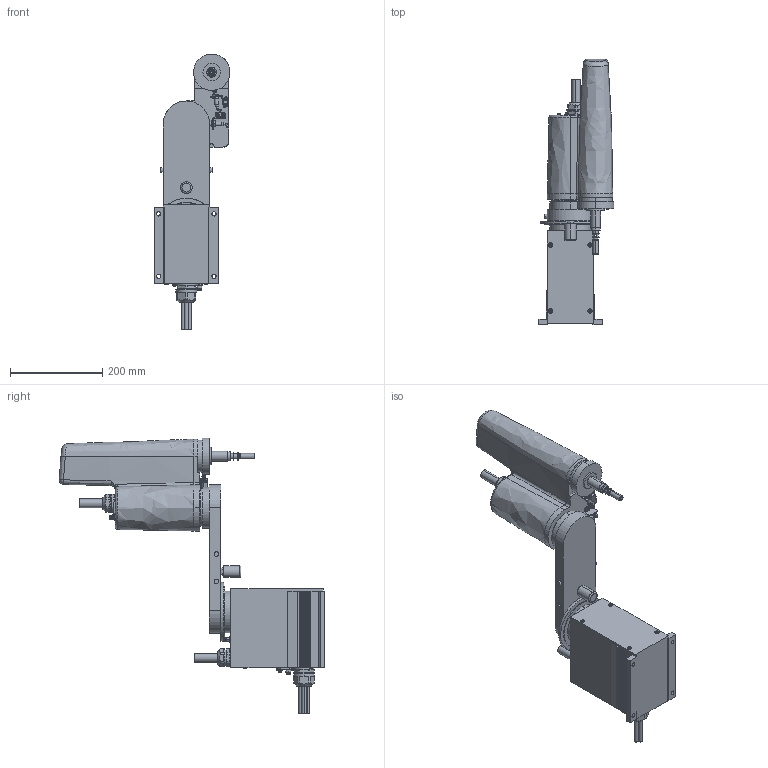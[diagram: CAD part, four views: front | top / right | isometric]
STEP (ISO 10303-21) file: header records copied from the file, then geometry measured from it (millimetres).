
FILE_DESCRIPTION (( 'STEP AP203' ), '1' );
FILE_NAME ('YK350X.STEP', '2005-06-22T10:23:40', ( 'IMロボット技術Gr' ), ( 'ヤマハ発動機' ), 'SwSTEP 2.0', 'SolidWorks 2004334', '' );
FILE_SCHEMA (( 'CONFIG_CONTROL_DESIGN' ));
Products named in the file (11): YK350X-XARM; YK350X-XARM_YK350X; YK350X-Z; YK350X-Z_YK350X; KN3BASE; YK350X; RARM-2_YK350X; YK350X-YARM; RARM-2Part1
Assembly tree (10 placements, depth 3):
  YK350X
    YK350X-Z_YK350X
      YK350X-Z
    KN3BASE
      KN3BASE
    YK350X-YARM
      YK350X-YARM
    YK350X-XARM_YK350X
      YK350X-XARM
    RARM-2_YK350X
      RARM-2Part1
Bounding box: 164.5 x 575.7 x 598.3 mm (x, y, z)
Volume: 8987922.7 mm3; surface area: 528884.7 mm2
Topology: 9 solids, 32 shells, 1573 faces, 3819 edges, 2385 vertices
Faces by surface type: plane 719, cylinder 486, cone 250, sphere 54, torus 48, bspline 16
Entity records: 70016 total; most frequent: CARTESIAN_POINT 31877, DIRECTION 8163, ORIENTED_EDGE 7418, EDGE_CURVE 3709, AXIS2_PLACEMENT_3D 3276, VERTEX_POINT 2353, EDGE_LOOP 1782, CIRCLE 1701
